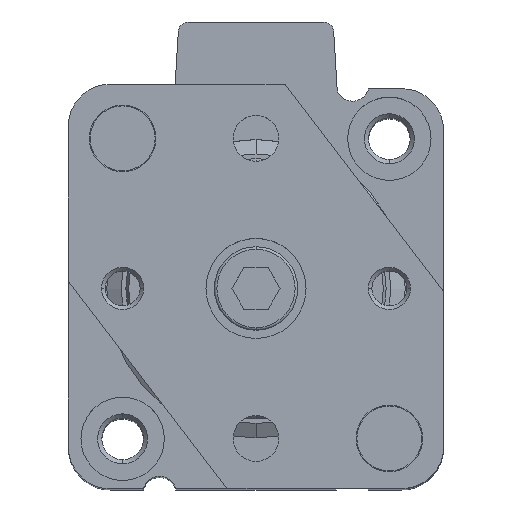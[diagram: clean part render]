
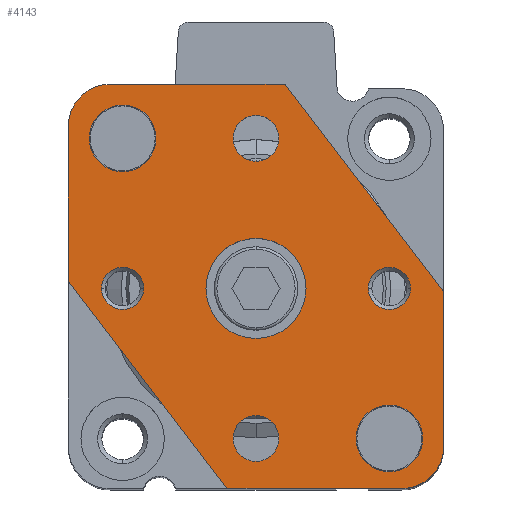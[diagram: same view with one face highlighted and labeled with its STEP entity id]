
A CAD part, top view. The second image highlights one B-rep face of the part: STEP entity #4143.
In plain terms, the highlighted planar face has unit normal (0, 0, 1).
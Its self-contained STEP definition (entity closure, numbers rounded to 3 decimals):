
#3083=CARTESIAN_POINT('',(0.,18.,0.));
#3084=DIRECTION('',(0.,0.,1.));
#3085=DIRECTION('',(-1.,0.,0.));
#3086=AXIS2_PLACEMENT_3D('',#3083,#3084,#3085);
#3088=CARTESIAN_POINT('',(0.,18.,0.));
#3089=DIRECTION('',(0.,0.,1.));
#3090=DIRECTION('',(1.,0.,0.));
#3091=AXIS2_PLACEMENT_3D('',#3088,#3089,#3090);
#3093=CARTESIAN_POINT('',(0.,-18.,0.));
#3094=DIRECTION('',(0.,0.,1.));
#3095=DIRECTION('',(-1.,0.,0.));
#3096=AXIS2_PLACEMENT_3D('',#3093,#3094,#3095);
#3098=CARTESIAN_POINT('',(0.,-18.,0.));
#3099=DIRECTION('',(0.,0.,1.));
#3100=DIRECTION('',(1.,0.,0.));
#3101=AXIS2_PLACEMENT_3D('',#3098,#3099,#3100);
#3103=DIRECTION('',(0.607,-0.795,0.));
#3104=VECTOR('',#3103,31.302);
#3105=CARTESIAN_POINT('',(3.492,24.5,0.));
#3106=LINE('',#3105,#3104);
#3107=DIRECTION('',(0.,-1.,0.));
#3108=VECTOR('',#3107,18.629);
#3109=CARTESIAN_POINT('',(22.5,-0.371,0.));
#3110=LINE('',#3109,#3108);
#3111=CARTESIAN_POINT('',(17.5,-19.,0.));
#3112=DIRECTION('',(0.,0.,-1.));
#3113=DIRECTION('',(1.,0.,0.));
#3114=AXIS2_PLACEMENT_3D('',#3111,#3112,#3113);
#3116=DIRECTION('',(-1.,0.,0.));
#3117=VECTOR('',#3116,20.992);
#3118=CARTESIAN_POINT('',(17.5,-24.,0.));
#3119=LINE('',#3118,#3117);
#3120=DIRECTION('',(-0.607,0.795,0.));
#3121=VECTOR('',#3120,31.302);
#3122=CARTESIAN_POINT('',(-3.492,-24.,0.));
#3123=LINE('',#3122,#3121);
#3124=DIRECTION('',(0.,1.,0.));
#3125=VECTOR('',#3124,18.629);
#3126=CARTESIAN_POINT('',(-22.5,0.871,0.));
#3127=LINE('',#3126,#3125);
#3128=CARTESIAN_POINT('',(-17.5,19.5,0.));
#3129=DIRECTION('',(0.,0.,-1.));
#3130=DIRECTION('',(-1.,0.,0.));
#3131=AXIS2_PLACEMENT_3D('',#3128,#3129,#3130);
#3133=DIRECTION('',(1.,0.,0.));
#3134=VECTOR('',#3133,20.992);
#3135=CARTESIAN_POINT('',(-17.5,24.5,0.));
#3136=LINE('',#3135,#3134);
#3137=CARTESIAN_POINT('',(0.,0.,0.));
#3138=DIRECTION('',(0.,0.,1.));
#3139=DIRECTION('',(0.,1.,0.));
#3140=AXIS2_PLACEMENT_3D('',#3137,#3138,#3139);
#3142=CARTESIAN_POINT('',(0.,0.,0.));
#3143=DIRECTION('',(0.,0.,1.));
#3144=DIRECTION('',(0.,-1.,0.));
#3145=AXIS2_PLACEMENT_3D('',#3142,#3143,#3144);
#3157=CARTESIAN_POINT('',(-16.,18.,0.));
#3158=DIRECTION('',(0.,0.,1.));
#3159=DIRECTION('',(1.,0.,0.));
#3160=AXIS2_PLACEMENT_3D('',#3157,#3158,#3159);
#3162=CARTESIAN_POINT('',(-16.,18.,0.));
#3163=DIRECTION('',(0.,0.,1.));
#3164=DIRECTION('',(-1.,0.,0.));
#3165=AXIS2_PLACEMENT_3D('',#3162,#3163,#3164);
#3177=CARTESIAN_POINT('',(16.,-18.,0.));
#3178=DIRECTION('',(0.,0.,1.));
#3179=DIRECTION('',(1.,0.,0.));
#3180=AXIS2_PLACEMENT_3D('',#3177,#3178,#3179);
#3182=CARTESIAN_POINT('',(16.,-18.,0.));
#3183=DIRECTION('',(0.,0.,1.));
#3184=DIRECTION('',(-1.,0.,0.));
#3185=AXIS2_PLACEMENT_3D('',#3182,#3183,#3184);
#3350=CARTESIAN_POINT('',(16.,0.,0.));
#3351=DIRECTION('',(0.,0.,1.));
#3352=DIRECTION('',(1.,0.,0.));
#3353=AXIS2_PLACEMENT_3D('',#3350,#3351,#3352);
#3360=CARTESIAN_POINT('',(16.,0.,0.));
#3361=DIRECTION('',(0.,0.,1.));
#3362=DIRECTION('',(-1.,0.,0.));
#3363=AXIS2_PLACEMENT_3D('',#3360,#3361,#3362);
#3414=CARTESIAN_POINT('',(-16.,0.,0.));
#3415=DIRECTION('',(0.,0.,1.));
#3416=DIRECTION('',(1.,0.,0.));
#3417=AXIS2_PLACEMENT_3D('',#3414,#3415,#3416);
#3424=CARTESIAN_POINT('',(-16.,0.,0.));
#3425=DIRECTION('',(0.,0.,1.));
#3426=DIRECTION('',(-1.,0.,0.));
#3427=AXIS2_PLACEMENT_3D('',#3424,#3425,#3426);
#3861=CARTESIAN_POINT('',(-2.75,18.,0.));
#3862=CARTESIAN_POINT('',(2.75,18.,0.));
#3863=VERTEX_POINT('',#3861);
#3864=VERTEX_POINT('',#3862);
#3865=CARTESIAN_POINT('',(-2.75,-18.,0.));
#3866=CARTESIAN_POINT('',(2.75,-18.,0.));
#3867=VERTEX_POINT('',#3865);
#3868=VERTEX_POINT('',#3866);
#3869=CARTESIAN_POINT('',(-22.5,19.5,0.));
#3870=CARTESIAN_POINT('',(-17.5,24.5,0.));
#3871=VERTEX_POINT('',#3869);
#3872=VERTEX_POINT('',#3870);
#3873=CARTESIAN_POINT('',(22.5,-19.,0.));
#3874=CARTESIAN_POINT('',(17.5,-24.,0.));
#3875=VERTEX_POINT('',#3873);
#3876=VERTEX_POINT('',#3874);
#3885=CARTESIAN_POINT('',(3.492,24.5,0.));
#3886=CARTESIAN_POINT('',(22.5,-0.371,0.));
#3887=VERTEX_POINT('',#3885);
#3888=VERTEX_POINT('',#3886);
#3889=CARTESIAN_POINT('',(-3.492,-24.,0.));
#3890=CARTESIAN_POINT('',(-22.5,0.871,0.));
#3891=VERTEX_POINT('',#3889);
#3892=VERTEX_POINT('',#3890);
#3901=CARTESIAN_POINT('',(-13.467,0.,0.));
#3902=CARTESIAN_POINT('',(-18.533,0.,0.));
#3903=VERTEX_POINT('',#3901);
#3904=VERTEX_POINT('',#3902);
#3909=CARTESIAN_POINT('',(18.533,0.,0.));
#3910=CARTESIAN_POINT('',(13.467,0.,0.));
#3911=VERTEX_POINT('',#3909);
#3912=VERTEX_POINT('',#3910);
#3949=CARTESIAN_POINT('',(0.,6.,0.));
#3950=CARTESIAN_POINT('',(0.,-6.,0.));
#3951=VERTEX_POINT('',#3949);
#3952=VERTEX_POINT('',#3950);
#4053=CARTESIAN_POINT('',(-12.,18.,0.));
#4054=CARTESIAN_POINT('',(-20.,18.,0.));
#4055=VERTEX_POINT('',#4053);
#4056=VERTEX_POINT('',#4054);
#4061=CARTESIAN_POINT('',(20.,-18.,0.));
#4062=CARTESIAN_POINT('',(12.,-18.,0.));
#4063=VERTEX_POINT('',#4061);
#4064=VERTEX_POINT('',#4062);
#4078=CARTESIAN_POINT('',(0.,0.,0.));
#4079=DIRECTION('',(0.,0.,1.));
#4080=DIRECTION('',(1.,0.,0.));
#4081=AXIS2_PLACEMENT_3D('',#4078,#4079,#4080);
#4082=PLANE('',#4081);
#4084=ORIENTED_EDGE('',*,*,#4083,.T.);
#4086=ORIENTED_EDGE('',*,*,#4085,.T.);
#4088=ORIENTED_EDGE('',*,*,#4087,.T.);
#4090=ORIENTED_EDGE('',*,*,#4089,.T.);
#4092=ORIENTED_EDGE('',*,*,#4091,.T.);
#4094=ORIENTED_EDGE('',*,*,#4093,.T.);
#4096=ORIENTED_EDGE('',*,*,#4095,.T.);
#4098=ORIENTED_EDGE('',*,*,#4097,.T.);
#4099=EDGE_LOOP('',(#4084,#4086,#4088,#4090,#4092,#4094,#4096,#4098));
#4100=FACE_OUTER_BOUND('',#4099,.F.);
#4102=ORIENTED_EDGE('',*,*,#4101,.T.);
#4104=ORIENTED_EDGE('',*,*,#4103,.T.);
#4105=EDGE_LOOP('',(#4102,#4104));
#4106=FACE_BOUND('',#4105,.F.);
#4108=ORIENTED_EDGE('',*,*,#4107,.T.);
#4110=ORIENTED_EDGE('',*,*,#4109,.T.);
#4111=EDGE_LOOP('',(#4108,#4110));
#4112=FACE_BOUND('',#4111,.F.);
#4114=ORIENTED_EDGE('',*,*,#4113,.T.);
#4116=ORIENTED_EDGE('',*,*,#4115,.T.);
#4117=EDGE_LOOP('',(#4114,#4116));
#4118=FACE_BOUND('',#4117,.F.);
#4120=ORIENTED_EDGE('',*,*,#4119,.T.);
#4122=ORIENTED_EDGE('',*,*,#4121,.T.);
#4123=EDGE_LOOP('',(#4120,#4122));
#4124=FACE_BOUND('',#4123,.F.);
#4126=ORIENTED_EDGE('',*,*,#4125,.T.);
#4128=ORIENTED_EDGE('',*,*,#4127,.T.);
#4129=EDGE_LOOP('',(#4126,#4128));
#4130=FACE_BOUND('',#4129,.F.);
#4132=ORIENTED_EDGE('',*,*,#4131,.T.);
#4134=ORIENTED_EDGE('',*,*,#4133,.T.);
#4135=EDGE_LOOP('',(#4132,#4134));
#4136=FACE_BOUND('',#4135,.F.);
#4138=ORIENTED_EDGE('',*,*,#4137,.T.);
#4140=ORIENTED_EDGE('',*,*,#4139,.T.);
#4141=EDGE_LOOP('',(#4138,#4140));
#4142=FACE_BOUND('',#4141,.F.);
#4143=ADVANCED_FACE('',(#4100,#4106,#4112,#4118,#4124,#4130,#4136,#4142),#4082,
.T.);
#3087=CIRCLE('',#3086,2.75);
#3092=CIRCLE('',#3091,2.75);
#3097=CIRCLE('',#3096,2.75);
#3102=CIRCLE('',#3101,2.75);
#3115=CIRCLE('',#3114,5.);
#3132=CIRCLE('',#3131,5.);
#3141=CIRCLE('',#3140,6.);
#3146=CIRCLE('',#3145,6.);
#3161=CIRCLE('',#3160,4.);
#3166=CIRCLE('',#3165,4.);
#3181=CIRCLE('',#3180,4.);
#3186=CIRCLE('',#3185,4.);
#3354=CIRCLE('',#3353,2.533);
#3364=CIRCLE('',#3363,2.533);
#3418=CIRCLE('',#3417,2.533);
#3428=CIRCLE('',#3427,2.533);
#4083=EDGE_CURVE('',#3887,#3888,#3106,.T.);
#4085=EDGE_CURVE('',#3888,#3875,#3110,.T.);
#4087=EDGE_CURVE('',#3875,#3876,#3115,.T.);
#4089=EDGE_CURVE('',#3876,#3891,#3119,.T.);
#4091=EDGE_CURVE('',#3891,#3892,#3123,.T.);
#4093=EDGE_CURVE('',#3892,#3871,#3127,.T.);
#4095=EDGE_CURVE('',#3871,#3872,#3132,.T.);
#4097=EDGE_CURVE('',#3872,#3887,#3136,.T.);
#4101=EDGE_CURVE('',#3863,#3864,#3087,.T.);
#4103=EDGE_CURVE('',#3864,#3863,#3092,.T.);
#4107=EDGE_CURVE('',#3867,#3868,#3097,.T.);
#4109=EDGE_CURVE('',#3868,#3867,#3102,.T.);
#4113=EDGE_CURVE('',#3912,#3911,#3364,.T.);
#4115=EDGE_CURVE('',#3911,#3912,#3354,.T.);
#4119=EDGE_CURVE('',#3904,#3903,#3428,.T.);
#4121=EDGE_CURVE('',#3903,#3904,#3418,.T.);
#4125=EDGE_CURVE('',#3951,#3952,#3141,.T.);
#4127=EDGE_CURVE('',#3952,#3951,#3146,.T.);
#4131=EDGE_CURVE('',#4055,#4056,#3161,.T.);
#4133=EDGE_CURVE('',#4056,#4055,#3166,.T.);
#4137=EDGE_CURVE('',#4063,#4064,#3181,.T.);
#4139=EDGE_CURVE('',#4064,#4063,#3186,.T.);
